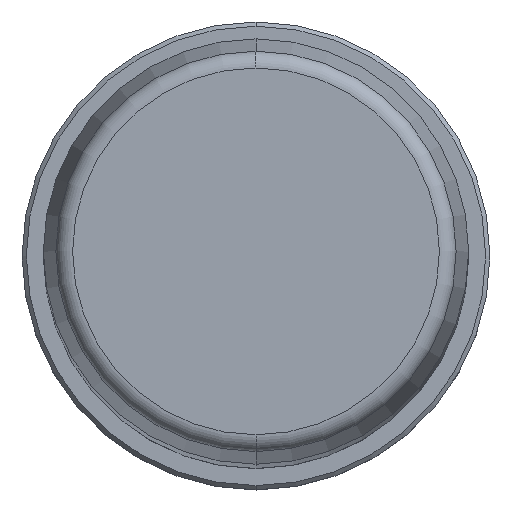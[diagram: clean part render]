
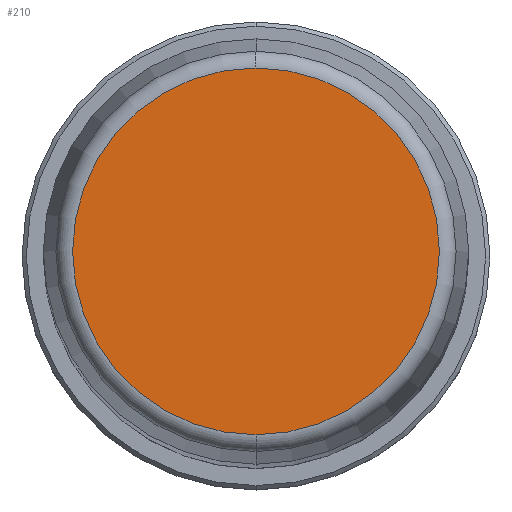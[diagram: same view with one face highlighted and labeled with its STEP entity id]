
A CAD part, top view. The second image highlights one B-rep face of the part: STEP entity #210.
In plain terms, the highlighted planar face has unit normal (0, 0, 1).
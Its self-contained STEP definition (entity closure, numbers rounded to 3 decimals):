
#1=CARTESIAN_POINT('',(0.,0.,315.));
#2=DIRECTION('',(0.,0.,-1.));
#3=DIRECTION('',(0.,-1.,0.));
#4=AXIS2_PLACEMENT_3D('',#1,#2,#3);
#6=CARTESIAN_POINT('',(0.,0.,315.));
#7=DIRECTION('',(0.,0.,-1.));
#8=DIRECTION('',(0.,1.,0.));
#9=AXIS2_PLACEMENT_3D('',#6,#7,#8);
#183=CARTESIAN_POINT('',(0.,-21.559,315.));
#184=CARTESIAN_POINT('',(0.,21.559,315.));
#185=VERTEX_POINT('',#183);
#186=VERTEX_POINT('',#184);
#199=CARTESIAN_POINT('',(0.,0.,315.));
#200=DIRECTION('',(0.,0.,1.));
#201=DIRECTION('',(0.,-1.,0.));
#202=AXIS2_PLACEMENT_3D('',#199,#200,#201);
#203=PLANE('',#202);
#205=ORIENTED_EDGE('',*,*,#204,.T.);
#207=ORIENTED_EDGE('',*,*,#206,.T.);
#208=EDGE_LOOP('',(#205,#207));
#209=FACE_OUTER_BOUND('',#208,.F.);
#210=ADVANCED_FACE('',(#209),#203,.T.);
#5=CIRCLE('',#4,21.559);
#10=CIRCLE('',#9,21.559);
#204=EDGE_CURVE('',#185,#186,#5,.T.);
#206=EDGE_CURVE('',#186,#185,#10,.T.);
